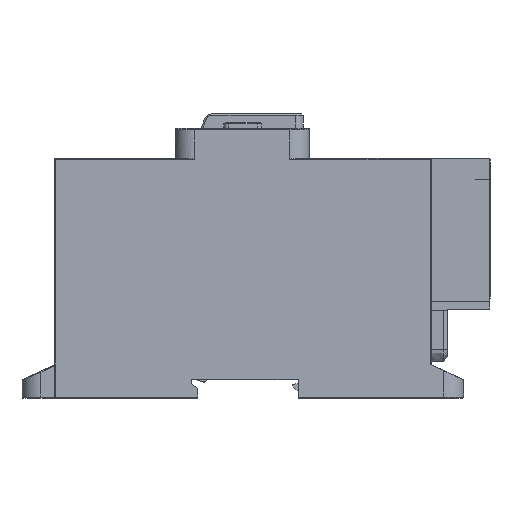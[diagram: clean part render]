
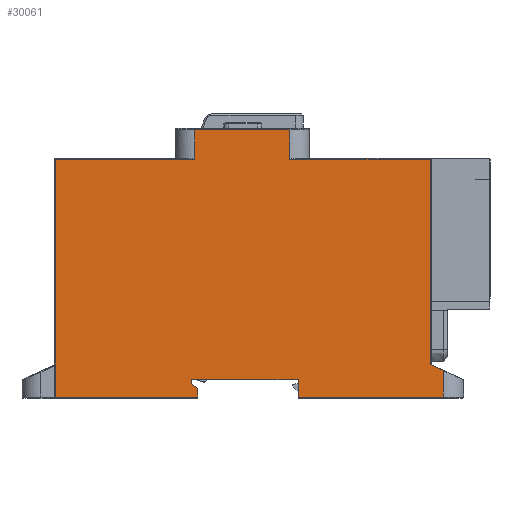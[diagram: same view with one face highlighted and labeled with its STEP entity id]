
A CAD part, left-side view. The second image highlights one B-rep face of the part: STEP entity #30061.
In plain terms, the highlighted planar face has unit normal (-1, 0, 0).
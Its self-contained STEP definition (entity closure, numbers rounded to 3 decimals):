
#468=DIRECTION('',(0.,-1.,0.));
#469=VECTOR('',#468,47.2);
#470=CARTESIAN_POINT('',(0.,144.2,0.3));
#471=LINE('',#470,#469);
#497=DIRECTION('',(0.,0.005,1.));
#498=VECTOR('',#497,5.987);
#499=CARTESIAN_POINT('',(0.,63.62,
0.3));
#500=LINE('',#499,#498);
#501=DIRECTION('',(0.,1.,0.));
#502=VECTOR('',#501,35.497);
#503=CARTESIAN_POINT('',(0.,63.652,6.287));
#504=LINE('',#503,#502);
#505=DIRECTION('',(0.,0.005,-1.));
#506=VECTOR('',#505,1.595);
#507=CARTESIAN_POINT('',(0.,99.148,6.3));
#508=LINE('',#507,#506);
#509=DIRECTION('',(0.,-0.819,-0.574));
#510=VECTOR('',#509,2.633);
#511=CARTESIAN_POINT('',(0.,99.157,4.705));
#512=LINE('',#511,#510);
#513=DIRECTION('',(0.,0.,-1.));
#514=VECTOR('',#513,2.895);
#515=CARTESIAN_POINT('',(0.,97.,3.195));
#516=LINE('',#515,#514);
#517=DIRECTION('',(0.,0.,1.));
#518=VECTOR('',#517,9.801);
#519=CARTESIAN_POINT('',(0.,97.977,79.199));
#520=LINE('',#519,#518);
#521=DIRECTION('',(0.,-1.,0.));
#522=VECTOR('',#521,31.599);
#523=CARTESIAN_POINT('',(0.,97.977,89.));
#524=LINE('',#523,#522);
#525=DIRECTION('',(0.,0.013,-1.));
#526=VECTOR('',#525,9.802);
#527=CARTESIAN_POINT('',(0.,66.378,89.));
#528=LINE('',#527,#526);
#529=DIRECTION('',(0.,-0.907,-0.42));
#530=VECTOR('',#529,4.738);
#531=CARTESIAN_POINT('',(0.,19.8,11.139));
#532=LINE('',#531,#530);
#533=DIRECTION('',(0.,-1.,0.));
#534=VECTOR('',#533,48.12);
#535=CARTESIAN_POINT('',(0.,63.62,
0.3));
#536=LINE('',#535,#534);
#1063=DIRECTION('',(0.,0.,1.));
#1064=VECTOR('',#1063,8.848);
#1065=CARTESIAN_POINT('',(0.,15.5,0.3));
#1066=LINE('',#1065,#1064);
#1086=CARTESIAN_POINT('',(0.,15.5,9.148));
#6419=DIRECTION('',(0.,0.,1.));
#6420=VECTOR('',#6419,68.06);
#6421=CARTESIAN_POINT('',(0.,19.8,11.139));
#6422=LINE('',#6421,#6420);
#6431=DIRECTION('',(0.,1.,0.));
#6432=VECTOR('',#6431,46.704);
#6433=CARTESIAN_POINT('',(0.,19.8,79.199));
#6434=LINE('',#6433,#6432);
#6496=DIRECTION('',(0.,1.,0.));
#6497=VECTOR('',#6496,46.223);
#6498=CARTESIAN_POINT('',(0.,97.977,79.199));
#6499=LINE('',#6498,#6497);
#7605=CARTESIAN_POINT('',(0.,99.148,6.3));
#16910=DIRECTION('',(0.,0.,-1.));
#16911=VECTOR('',#16910,78.899);
#16912=CARTESIAN_POINT('',(0.,144.2,79.199));
#16913=LINE('',#16912,#16911);
#23285=VERTEX_POINT('',#7605);
#23286=CARTESIAN_POINT('',(0.,63.652,
6.287));
#23287=VERTEX_POINT('',#23286);
#23304=CARTESIAN_POINT('',(0.,99.157,
4.705));
#23305=VERTEX_POINT('',#23304);
#23316=CARTESIAN_POINT('',(0.,97.,3.195));
#23317=VERTEX_POINT('',#23316);
#24036=VERTEX_POINT('',#1086);
#24037=CARTESIAN_POINT('',(0.,19.8,11.139));
#24038=VERTEX_POINT('',#24037);
#25983=CARTESIAN_POINT('',(0.,63.62,
0.3));
#25984=VERTEX_POINT('',#25983);
#26083=CARTESIAN_POINT('',(0.,15.5,0.3));
#26084=VERTEX_POINT('',#26083);
#26085=CARTESIAN_POINT('',(0.,97.,0.3));
#26086=VERTEX_POINT('',#26085);
#26087=CARTESIAN_POINT('',(0.,144.2,0.3));
#26088=VERTEX_POINT('',#26087);
#26089=CARTESIAN_POINT('',(0.,144.2,79.199));
#26090=VERTEX_POINT('',#26089);
#26091=CARTESIAN_POINT('',(0.,97.977,79.199));
#26092=VERTEX_POINT('',#26091);
#26093=CARTESIAN_POINT('',(0.,97.977,89.));
#26094=VERTEX_POINT('',#26093);
#26095=CARTESIAN_POINT('',(0.,66.378,
89.));
#26096=VERTEX_POINT('',#26095);
#26097=CARTESIAN_POINT('',(0.,66.504,79.199));
#26098=VERTEX_POINT('',#26097);
#26099=CARTESIAN_POINT('',(0.,19.8,79.199));
#26100=VERTEX_POINT('',#26099);
#30024=CARTESIAN_POINT('',(0.,156.,0.));
#30025=DIRECTION('',(-1.,0.,0.));
#30026=DIRECTION('',(0.,-1.,0.));
#30027=AXIS2_PLACEMENT_3D('',#30024,#30025,#30026);
#30028=PLANE('',#30027);
#30030=ORIENTED_EDGE('',*,*,#30029,.F.);
#30032=ORIENTED_EDGE('',*,*,#30031,.T.);
#30034=ORIENTED_EDGE('',*,*,#30033,.T.);
#30036=ORIENTED_EDGE('',*,*,#30035,.T.);
#30038=ORIENTED_EDGE('',*,*,#30037,.T.);
#30039=ORIENTED_EDGE('',*,*,#30007,.T.);
#30040=ORIENTED_EDGE('',*,*,#29996,.F.);
#30042=ORIENTED_EDGE('',*,*,#30041,.F.);
#30044=ORIENTED_EDGE('',*,*,#30043,.F.);
#30046=ORIENTED_EDGE('',*,*,#30045,.T.);
#30048=ORIENTED_EDGE('',*,*,#30047,.T.);
#30050=ORIENTED_EDGE('',*,*,#30049,.T.);
#30052=ORIENTED_EDGE('',*,*,#30051,.F.);
#30054=ORIENTED_EDGE('',*,*,#30053,.F.);
#30056=ORIENTED_EDGE('',*,*,#30055,.T.);
#30058=ORIENTED_EDGE('',*,*,#30057,.F.);
#30059=EDGE_LOOP('',(#30030,#30032,#30034,#30036,#30038,#30039,#30040,#30042,
#30044,#30046,#30048,#30050,#30052,#30054,#30056,#30058));
#30060=FACE_OUTER_BOUND('',#30059,.F.);
#30061=ADVANCED_FACE('',(#30060),#30028,.T.);
#29996=EDGE_CURVE('',#26088,#26086,#471,.T.);
#30007=EDGE_CURVE('',#23317,#26086,#516,.T.);
#30029=EDGE_CURVE('',#25984,#26084,#536,.T.);
#30031=EDGE_CURVE('',#25984,#23287,#500,.T.);
#30033=EDGE_CURVE('',#23287,#23285,#504,.T.);
#30035=EDGE_CURVE('',#23285,#23305,#508,.T.);
#30037=EDGE_CURVE('',#23305,#23317,#512,.T.);
#30041=EDGE_CURVE('',#26090,#26088,#16913,.T.);
#30043=EDGE_CURVE('',#26092,#26090,#6499,.T.);
#30045=EDGE_CURVE('',#26092,#26094,#520,.T.);
#30047=EDGE_CURVE('',#26094,#26096,#524,.T.);
#30049=EDGE_CURVE('',#26096,#26098,#528,.T.);
#30051=EDGE_CURVE('',#26100,#26098,#6434,.T.);
#30053=EDGE_CURVE('',#24038,#26100,#6422,.T.);
#30055=EDGE_CURVE('',#24038,#24036,#532,.T.);
#30057=EDGE_CURVE('',#26084,#24036,#1066,.T.);
